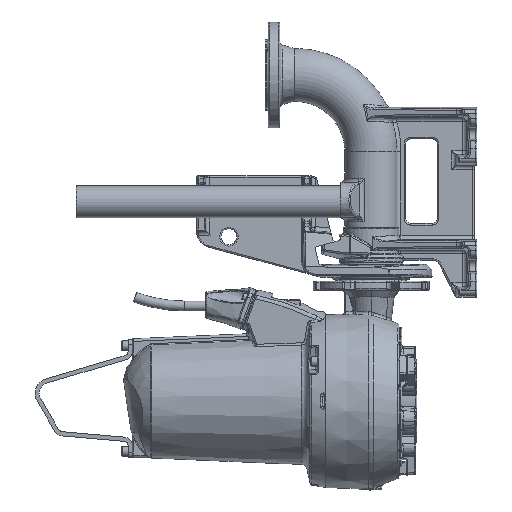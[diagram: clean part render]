
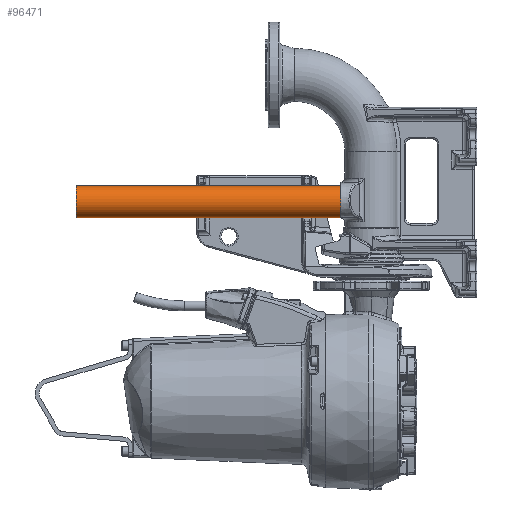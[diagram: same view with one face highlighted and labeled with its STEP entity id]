
A CAD part, front view. The second image highlights one B-rep face of the part: STEP entity #96471.
In plain terms, the highlighted cylindrical face has radius 30.15 mm (diameter 60.3 mm), a full revolution.
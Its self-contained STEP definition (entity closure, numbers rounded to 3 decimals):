
#9252 = VERTEX_POINT ( 'NONE', #85188 ) ;
#13341 = DIRECTION ( 'NONE',  ( 0., 0., -1. ) ) ;
#16103 = DIRECTION ( 'NONE',  ( 0., 0., 1. ) ) ;
#24275 = ORIENTED_EDGE ( 'NONE', *, *, #80327, .F. ) ;
#27619 = VERTEX_POINT ( 'NONE', #55516 ) ;
#30960 = CARTESIAN_POINT ( 'NONE',  ( -413., -50., -240. ) ) ;
#34597 = CIRCLE ( 'NONE', #82246, 30.15 ) ;
#43151 = CARTESIAN_POINT ( 'NONE',  ( 87., -50., -240. ) ) ;
#55283 = EDGE_LOOP ( 'NONE', ( #79848 ) ) ;
#55516 = CARTESIAN_POINT ( 'NONE',  ( 87., -50., -209.85 ) ) ;
#60166 = CYLINDRICAL_SURFACE ( 'NONE', #120597, 30.15 ) ;
#61302 = CARTESIAN_POINT ( 'NONE',  ( -413., -50., -240. ) ) ;
#63892 = CIRCLE ( 'NONE', #73817, 30.15 ) ;
#70848 = DIRECTION ( 'NONE',  ( 0., 0., 1. ) ) ;
#71565 = DIRECTION ( 'NONE',  ( -1., 0., 0. ) ) ;
#72676 = EDGE_CURVE ( 'NONE', #27619, #27619, #34597, .T. ) ;
#73817 = AXIS2_PLACEMENT_3D ( 'NONE', #30960, #81176, #70848 ) ;
#74872 = EDGE_LOOP ( 'NONE', ( #24275 ) ) ;
#79848 = ORIENTED_EDGE ( 'NONE', *, *, #72676, .T. ) ;
#80327 = EDGE_CURVE ( 'NONE', #9252, #9252, #63892, .T. ) ;
#81176 = DIRECTION ( 'NONE',  ( -1., 0., 0. ) ) ;
#82246 = AXIS2_PLACEMENT_3D ( 'NONE', #43151, #71565, #16103 ) ;
#85188 = CARTESIAN_POINT ( 'NONE',  ( -413., -50., -209.85 ) ) ;
#87842 = FACE_OUTER_BOUND ( 'NONE', #55283, .T. ) ;
#93980 = FACE_OUTER_BOUND ( 'NONE', #74872, .T. ) ;
#96471 = ADVANCED_FACE ( 'NONE', ( #93980, #87842 ), #60166, .T. ) ;
#120597 = AXIS2_PLACEMENT_3D ( 'NONE', #61302, #121512, #13341 ) ;
#121512 = DIRECTION ( 'NONE',  ( 1., 0., 0. ) ) ;
